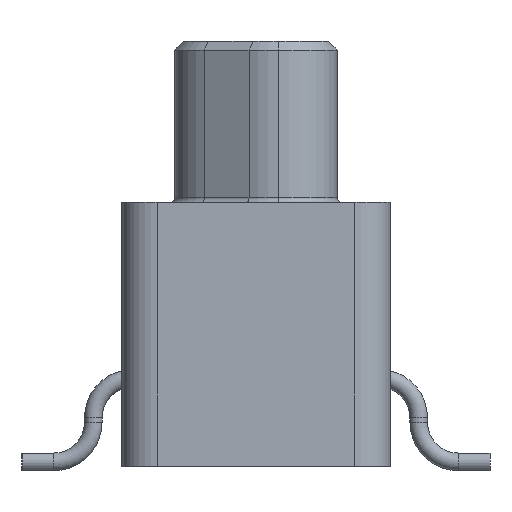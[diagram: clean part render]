
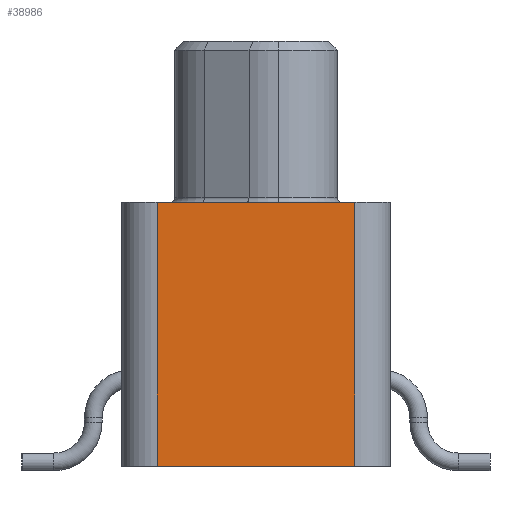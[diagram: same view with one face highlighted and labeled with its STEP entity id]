
A CAD part, left-side view. The second image highlights one B-rep face of the part: STEP entity #38986.
In plain terms, the highlighted planar face has unit normal (-1, 0, 0).
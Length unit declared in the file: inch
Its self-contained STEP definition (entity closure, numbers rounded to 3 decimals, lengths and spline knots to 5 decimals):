
#245 = CARTESIAN_POINT ( 'NONE',  ( -0.6625, -0.1125, 0.042 ) ) ;
#2101 = CARTESIAN_POINT ( 'NONE',  ( -0.6625, 0.1125, 0.042 ) ) ;
#3055 = LINE ( 'NONE', #35970, #7219 ) ;
#3516 = LINE ( 'NONE', #21178, #38285 ) ;
#4438 = EDGE_CURVE ( 'NONE', #31396, #8379, #3055, .T. ) ;
#4738 = ORIENTED_EDGE ( 'NONE', *, *, #32368, .F. ) ;
#4749 = CARTESIAN_POINT ( 'NONE',  ( -0.6625, -0.1125, 0.042 ) ) ;
#6659 = DIRECTION ( 'NONE',  ( 0., 1., 0. ) ) ;
#6847 = LINE ( 'NONE', #25266, #35439 ) ;
#6857 = VERTEX_POINT ( 'NONE', #21608 ) ;
#7219 = VECTOR ( 'NONE', #32579, 39.37008 ) ;
#8241 = CARTESIAN_POINT ( 'NONE',  ( -0.6625, 0.1125, -0.258 ) ) ;
#8379 = VERTEX_POINT ( 'NONE', #45492 ) ;
#9568 = LINE ( 'NONE', #2101, #15061 ) ;
#10468 = DIRECTION ( 'NONE',  ( 0., 0., -1. ) ) ;
#15061 = VECTOR ( 'NONE', #20948, 39.37008 ) ;
#17678 = PLANE ( 'NONE',  #27604 ) ;
#20948 = DIRECTION ( 'NONE',  ( 0., 0., -1. ) ) ;
#21178 = CARTESIAN_POINT ( 'NONE',  ( -0.6625, -0.1125, -0.258 ) ) ;
#21608 = CARTESIAN_POINT ( 'NONE',  ( -0.6625, -0.1125, -0.258 ) ) ;
#25220 = FACE_OUTER_BOUND ( 'NONE', #35352, .T. ) ;
#25266 = CARTESIAN_POINT ( 'NONE',  ( -0.6625, -0.1125, 0.042 ) ) ;
#25674 = ORIENTED_EDGE ( 'NONE', *, *, #36952, .T. ) ;
#27604 = AXIS2_PLACEMENT_3D ( 'NONE', #245, #37814, #34427 ) ;
#31396 = VERTEX_POINT ( 'NONE', #4749 ) ;
#32368 = EDGE_CURVE ( 'NONE', #31396, #6857, #6847, .T. ) ;
#32579 = DIRECTION ( 'NONE',  ( 0., 1., 0. ) ) ;
#34427 = DIRECTION ( 'NONE',  ( 0., 0., 1. ) ) ;
#35352 = EDGE_LOOP ( 'NONE', ( #25674, #46095, #4738, #43053 ) ) ;
#35439 = VECTOR ( 'NONE', #10468, 39.37008 ) ;
#35970 = CARTESIAN_POINT ( 'NONE',  ( -0.6625, -0.1125, 0.042 ) ) ;
#36952 = EDGE_CURVE ( 'NONE', #8379, #45986, #9568, .T. ) ;
#37035 = EDGE_CURVE ( 'NONE', #6857, #45986, #3516, .T. ) ;
#37814 = DIRECTION ( 'NONE',  ( -1., 0., 0. ) ) ;
#38285 = VECTOR ( 'NONE', #6659, 39.37008 ) ;
#38986 = ADVANCED_FACE ( 'NONE', ( #25220 ), #17678, .T. ) ;
#43053 = ORIENTED_EDGE ( 'NONE', *, *, #4438, .T. ) ;
#45492 = CARTESIAN_POINT ( 'NONE',  ( -0.6625, 0.1125, 0.042 ) ) ;
#45986 = VERTEX_POINT ( 'NONE', #8241 ) ;
#46095 = ORIENTED_EDGE ( 'NONE', *, *, #37035, .F. ) ;
